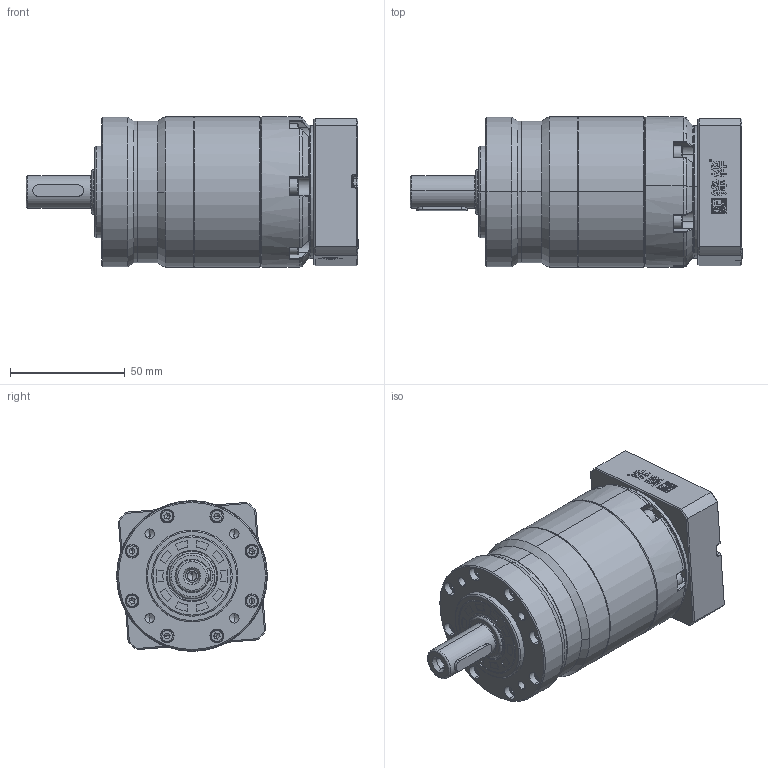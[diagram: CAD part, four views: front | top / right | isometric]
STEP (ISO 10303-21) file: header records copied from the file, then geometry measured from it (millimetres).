
FILE_DESCRIPTION (( 'STEP AP214' ), '1' );
FILE_NAME ('FE060-L2-S2-P2 14-50-70-M4.STEP', '2021-04-23T07:31:45', ( 'Microsoft' ), ( 'Microsoft China' ), 'SwSTEP 2.0', 'SolidWorks 2016', '' );
FILE_SCHEMA (( 'AUTOMOTIVE_DESIGN' ));
Length unit declared in the file: millimetre
Products named in the file (14): hexagon socket head cap screws gb_GB_FASTENER_SCREWS_HSHCS M3X16-N; FE064D一级内齿圈; hex socket set screws with cone point gb_GB_FASTENER_SCREWS_HSCP M10X10-N; hexagon socket head cap screws gb_GB_FASTENER_SCREWS_HSHCS M4X16-N; 蚐猾20355; FE060齿圈; A倰す瑩5-22; 3-输入端壳体FE064D; 坶踡遠18-37-12(1); 输入太阳齿轮060D-14; 11-输入法兰FE060D-50-70-M4; 10-怀堤傷褲极FE060; FE060-L2-S2-P2 14-50-70-M4; FE060D怀堤俴陎殤-14粣
Assembly tree (29 placements, depth 2):
  FE060-L2-S2-P2 14-50-70-M4
    10-怀堤傷褲极FE060
    11-输入法兰FE060D-50-70-M4
    输入太阳齿轮060D-14
    坶踡遠18-37-12(1)
    3-输入端壳体FE064D
    A倰す瑩5-22
    FE060齿圈
    蚐猾20355
    hexagon socket head cap screws gb_GB_FASTENER_SCREWS_HSHCS M4X16-N  x10
    hex socket set screws with cone point gb_GB_FASTENER_SCREWS_HSCP M10X10-N
    FE064D一级内齿圈
    hexagon socket head cap screws gb_GB_FASTENER_SCREWS_HSHCS M3X16-N  x8
    FE060D怀堤俴陎殤-14粣
Bounding box: 144.5 x 65.5 x 65.5 mm (x, y, z)
Volume: 341840.1 mm3; surface area: 87072.8 mm2
Topology: 30 solids, 35 shells, 1747 faces, 4279 edges, 2630 vertices
Faces by surface type: plane 724, cylinder 378, cone 257, bspline 204, torus 184
Entity records: 63790 total; most frequent: CARTESIAN_POINT 17147, ORIENTED_EDGE 6658, DIRECTION 6217, EDGE_CURVE 3329, AXIS2_PLACEMENT_3D 2292, VERTEX_POINT 2102, VECTOR 1633, LINE 1633
